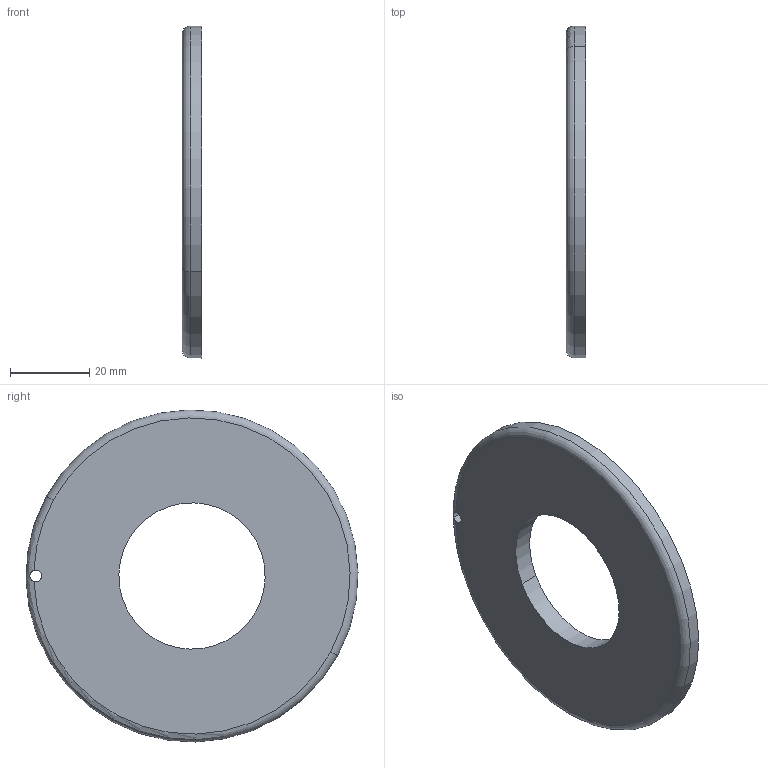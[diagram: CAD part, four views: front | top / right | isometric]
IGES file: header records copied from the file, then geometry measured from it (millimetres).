
Start section: START RECORD GO HERE.
Global section: file name: CALE 1.igs; native system: IBM CATIA IGES - CATIA Version 5 Release 18 ; preprocessor: CATIA Version 5 Release 18 ; author: Propriétaire; organization: FUJITSU-79916BB; date: 20090111.155552; units: millimetre
Bounding box: 5 x 83.98 x 83.98 mm (x, y, z)
Surface area: 10637.9 mm2 (no closed solid volume)
Topology: 0 solids, 0 shells, 10 faces, 50 edges, 50 vertices
Faces by surface type: revolution 8, plane 2
